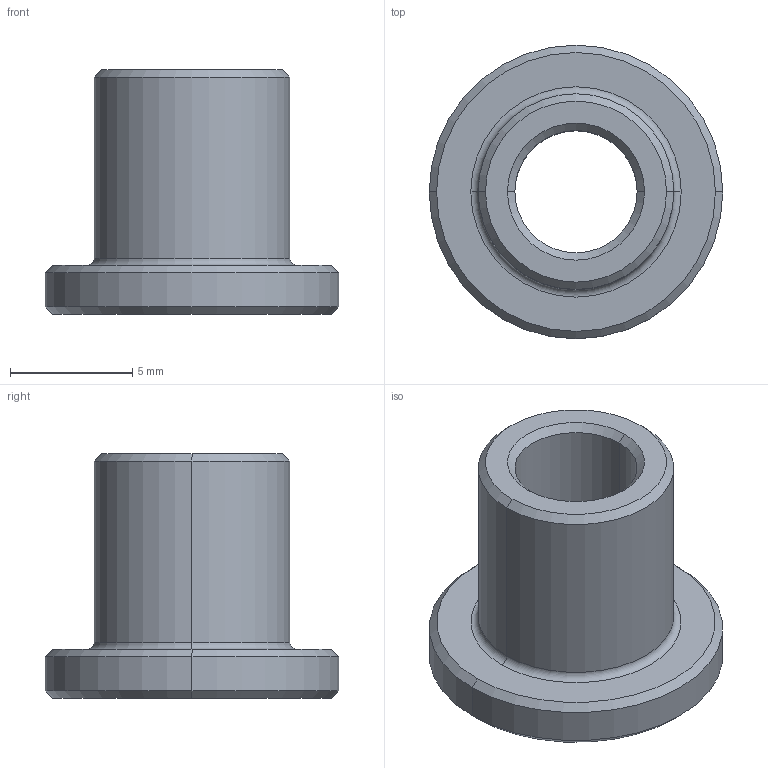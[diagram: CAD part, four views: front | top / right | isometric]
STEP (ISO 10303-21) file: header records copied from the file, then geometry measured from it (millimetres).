
FILE_DESCRIPTION (( 'STEP AP214' ), '1' );
FILE_NAME ('SBNA-8M5.STEP', '2023-01-10T07:49:22', ( 'Windows User' ), ( 'P R C' ), 'SwSTEP 2.0', 'SolidWorks 2018', '' );
FILE_SCHEMA (( 'AUTOMOTIVE_DESIGN' ));
Length unit declared in the file: millimetre
Products named in the file (1): SBNA-8M5
Bounding box: 12 x 12 x 10 mm (x, y, z)
Volume: 426.6 mm3; surface area: 594 mm2
Topology: 1 solids, 1 shells, 21 faces, 42 edges, 24 vertices
Faces by surface type: cone 10, cylinder 6, plane 3, torus 2
Entity records: 584 total; most frequent: DIRECTION 112, CARTESIAN_POINT 88, ORIENTED_EDGE 84, AXIS2_PLACEMENT_3D 48, EDGE_CURVE 42, CIRCLE 26, VERTEX_POINT 24, EDGE_LOOP 24
